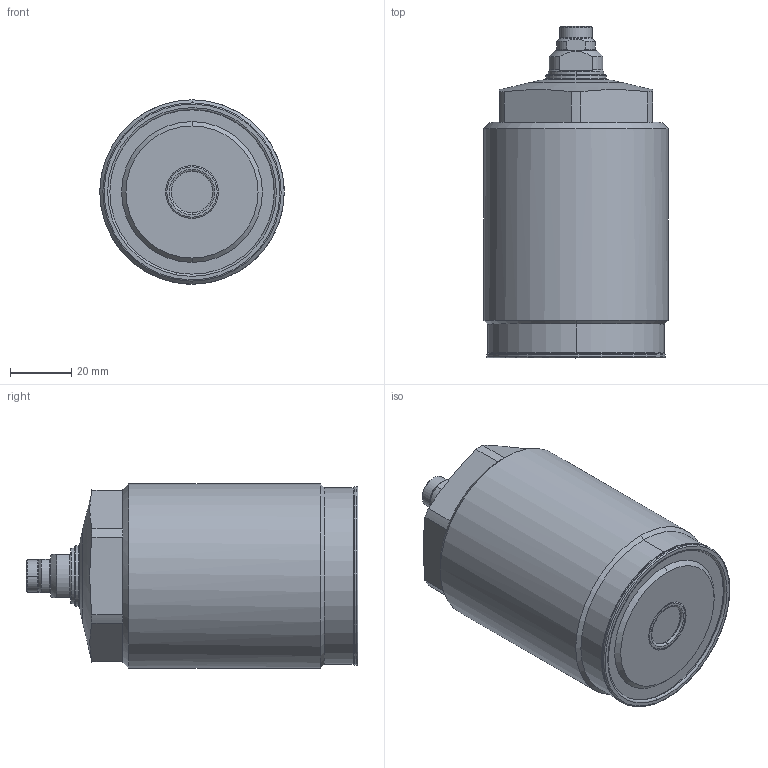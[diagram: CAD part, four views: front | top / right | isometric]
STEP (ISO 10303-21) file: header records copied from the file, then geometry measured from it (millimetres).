
FILE_DESCRIPTION(/* description */ (''),/* implementation_level */ '2;1');
FILE_NAME(/* name */ 'TNL60-M.stp',/* time_stamp */ '2023-07-04T11:15:56+08:00',/* author */ (''),/* organization */ (''),/* preprocessor_version */ 'ST-DEVELOPER v16.7',/* originating_system */ 'SIEMENS PLM Software NX 12.0',/* authorisation */ '');
FILE_SCHEMA (('AP203_CONFIGURATION_CONTROLLED_3D_DESIGN_OF_MECHANICAL_PARTS_AND_ASSEMBLIES_MIM_LF { 1 0 10303 403 2 1 2}'));
Length unit declared in the file: millimetre
Products named in the file (10): XLC-M10_Oring; XLC-M10SP_pin; XLC-M10SP_contactbolt; XLC-M10SP_pad; TNL60-04; TNL60-01; TNL60-03; TNL60-02; XLC-M10_-M; TNL60-M_stp
Assembly tree (9 placements, depth 3):
  TNL60-M_stp
    TNL60-02
    TNL60-03
    TNL60-01
    TNL60-04
    XLC-M10_-M
      XLC-M10SP_pad
      XLC-M10SP_contactbolt
      XLC-M10SP_pin
      XLC-M10_Oring
Bounding box: 60 x 108 x 60 mm (x, y, z)
Volume: 243019.6 mm3; surface area: 26008.5 mm2
Topology: 7 solids, 7 shells, 189 faces, 410 edges, 246 vertices
Faces by surface type: cylinder 59, torus 46, plane 43, cone 35, sphere 6
Full cylindrical faces by diameter (mm): 60 x1
Entity records: 6703 total; most frequent: CARTESIAN_POINT 1295, DIRECTION 1022, ORIENTED_EDGE 812, AXIS2_PLACEMENT_3D 453, EDGE_CURVE 406, CIRCLE 254, VERTEX_POINT 246, EDGE_LOOP 218
